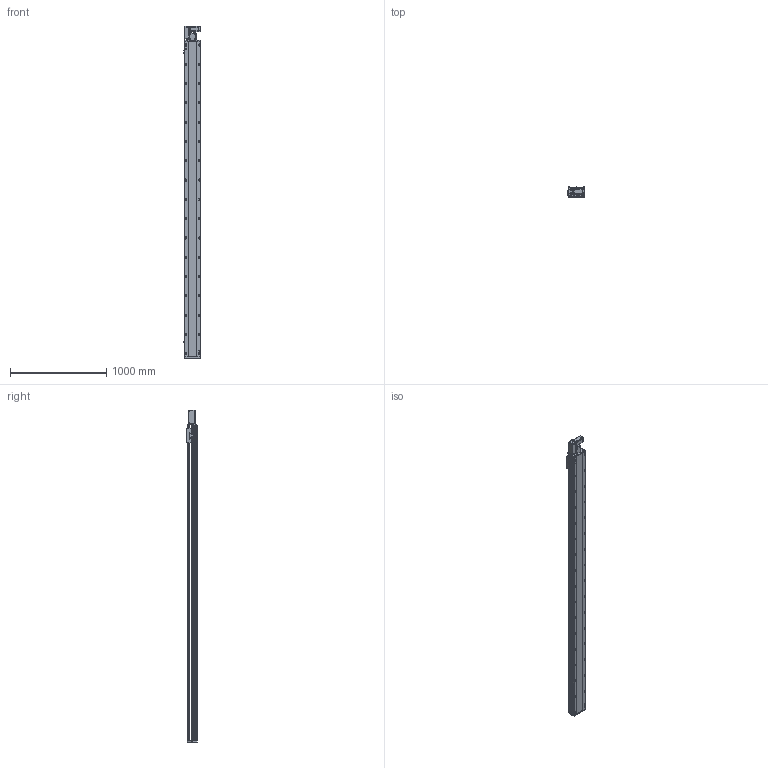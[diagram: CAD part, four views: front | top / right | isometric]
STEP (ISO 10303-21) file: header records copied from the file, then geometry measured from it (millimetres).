
FILE_DESCRIPTION (( 'STEP AP214' ), '1' );
FILE_NAME ('RTB17S-XX-3000-L-M40-C4.STEP', '2025-12-11T06:03:37', ( '' ), ( '' ), 'SwSTEP 2.0', 'SolidWorks 2018', '' );
FILE_SCHEMA (( 'AUTOMOTIVE_DESIGN' ));
Length unit declared in the file: millimetre
Products named in the file (14): RTB14-L-005P--轴承塑胶压盖^RTB17S-L-皮带座装配-400W_RTB17S-XX-XX-L-M40-C4; 400W侜督萇儂^RTB17S-XX-XX-L-M40-C4; RTB17-R-011菁釱^RTB17S-XX-XX-L-M40-C4; RTB17S-XX-3000-L-M40-C4; RTH13-BL-012覜茼え俋离^RTB17S-XX-XX-L-M40-C4; RTB17S-L-々湍釱蚾饜-400W^RTB17S-XX-XX-L-M40-C4; RTB14-L-017P^RTB17S-L-々湍釱蚾饜-400W_RTB17S-XX-XX-L-M40-C4; RTB17S-L-004佪裝蹟譫蟀諉釱^RTB17S-XX-XX-L-M40-C4; RTB17S-L-007奻裔^RTB17S-XX-XX-L-M40-C4; RTB17S-L-001耜醱啣^RTB17S-XX-XX-L-M40-C4; OMRON EE-SX672 传感器^RTB17S-XX-XX-L-M40-C4; RMP17S-L-014-T20--々湍釱^RTB17S-L-々湍釱蚾饜-400W_RTB17S-XX-XX-L-M40-C4; RTB14-L-018P^RTB17S-L-々湍釱蚾饜-400W_RTB17S-XX-XX-L-M40-C4; RTB14-L-008-M20--萇儂啣^RTB17S-L-々湍釱蚾饜-400W_RTB17S-XX-XX-L-M40-C4
Assembly tree (16 placements, depth 3):
  RTB17S-XX-3000-L-M40-C4
    RTB17-R-011菁釱^RTB17S-XX-XX-L-M40-C4
    RTB17S-L-007奻裔^RTB17S-XX-XX-L-M40-C4
    OMRON EE-SX672 传感器^RTB17S-XX-XX-L-M40-C4  x3
    RTB17S-L-001耜醱啣^RTB17S-XX-XX-L-M40-C4
    400W侜督萇儂^RTB17S-XX-XX-L-M40-C4
    RTB17S-L-004佪裝蹟譫蟀諉釱^RTB17S-XX-XX-L-M40-C4
    RTH13-BL-012覜茼え俋离^RTB17S-XX-XX-L-M40-C4
    RTB17S-L-々湍釱蚾饜-400W^RTB17S-XX-XX-L-M40-C4
      RMP17S-L-014-T20--々湍釱^RTB17S-L-々湍釱蚾饜-400W_RTB17S-XX-XX-L-M40-C4
      RTB14-L-005P--轴承塑胶压盖^RTB17S-L-皮带座装配-400W_RTB17S-XX-XX-L-M40-C4
      RTB14-L-008-M20--萇儂啣^RTB17S-L-々湍釱蚾饜-400W_RTB17S-XX-XX-L-M40-C4
      RTB14-L-017P^RTB17S-L-々湍釱蚾饜-400W_RTB17S-XX-XX-L-M40-C4  x2
      RTB14-L-018P^RTB17S-L-々湍釱蚾饜-400W_RTB17S-XX-XX-L-M40-C4
Bounding box: 186 x 108 x 3441 mm (x, y, z)
Volume: 28686796 mm3; surface area: 3275748.3 mm2
Topology: 15 solids, 15 shells, 2365 faces, 6627 edges, 4329 vertices
Faces by surface type: plane 1088, cylinder 829, bspline 301, cone 139, torus 8
Entity records: 70313 total; most frequent: CARTESIAN_POINT 20032, ORIENTED_EDGE 10098, DIRECTION 9296, EDGE_CURVE 5049, VERTEX_POINT 3317, AXIS2_PLACEMENT_3D 3247, VECTOR 2802, LINE 2802
